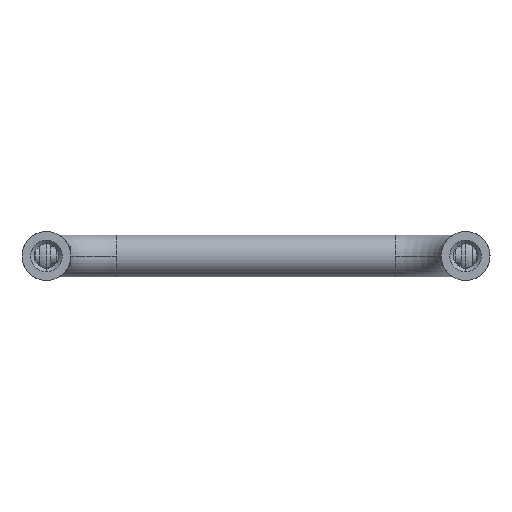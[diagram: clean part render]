
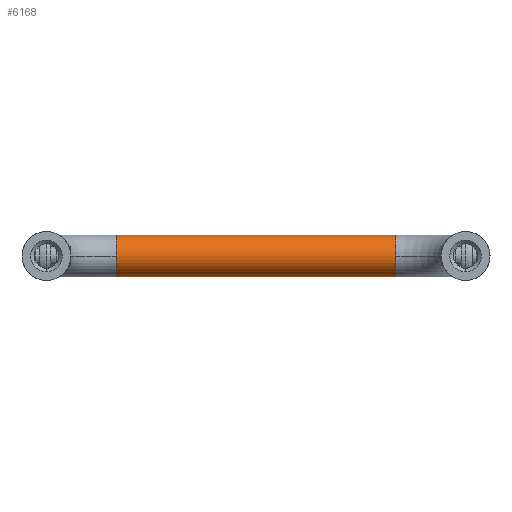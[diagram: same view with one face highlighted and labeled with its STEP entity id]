
A CAD part, front view. The second image highlights one B-rep face of the part: STEP entity #6168.
In plain terms, the highlighted cylindrical face has radius 3 mm (diameter 6 mm), a partial arc.
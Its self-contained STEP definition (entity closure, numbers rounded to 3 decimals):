
#33 = DIRECTION ( 'NONE',  ( 1., 0., 0. ) ) ;
#79 = CARTESIAN_POINT ( 'NONE',  ( -20., 34.682, 3. ) ) ;
#196 = FACE_OUTER_BOUND ( 'NONE', #1392, .T. ) ;
#327 = CIRCLE ( 'NONE', #1070, 3. ) ;
#387 = ORIENTED_EDGE ( 'NONE', *, *, #7477, .T. ) ;
#487 = CARTESIAN_POINT ( 'NONE',  ( 20., 34.682, 0. ) ) ;
#622 = AXIS2_PLACEMENT_3D ( 'NONE', #3644, #5997, #3025 ) ;
#639 = ORIENTED_EDGE ( 'NONE', *, *, #5566, .T. ) ;
#1070 = AXIS2_PLACEMENT_3D ( 'NONE', #487, #6851, #1607 ) ;
#1200 = VERTEX_POINT ( 'NONE', #2782 ) ;
#1315 = ORIENTED_EDGE ( 'NONE', *, *, #5380, .F. ) ;
#1374 = LINE ( 'NONE', #2029, #6910 ) ;
#1392 = EDGE_LOOP ( 'NONE', ( #1315, #2997, #1551, #639, #387, #3459 ) ) ;
#1551 = ORIENTED_EDGE ( 'NONE', *, *, #3642, .F. ) ;
#1607 = DIRECTION ( 'NONE',  ( 0., 0., 1. ) ) ;
#1746 = DIRECTION ( 'NONE',  ( 0., 0., 1. ) ) ;
#1769 = CARTESIAN_POINT ( 'NONE',  ( -20., 31.682, 0. ) ) ;
#2029 = CARTESIAN_POINT ( 'NONE',  ( -20., 34.682, -3. ) ) ;
#2215 = DIRECTION ( 'NONE',  ( -1., 0., 0. ) ) ;
#2474 = EDGE_CURVE ( 'NONE', #7182, #6692, #5305, .T. ) ;
#2782 = CARTESIAN_POINT ( 'NONE',  ( -20., 34.682, -3. ) ) ;
#2981 = VERTEX_POINT ( 'NONE', #5814 ) ;
#2997 = ORIENTED_EDGE ( 'NONE', *, *, #2474, .F. ) ;
#3025 = DIRECTION ( 'NONE',  ( 0., 0., -1. ) ) ;
#3175 = DIRECTION ( 'NONE',  ( 1., 0., 0. ) ) ;
#3459 = ORIENTED_EDGE ( 'NONE', *, *, #7488, .T. ) ;
#3468 = VECTOR ( 'NONE', #33, 1000. ) ;
#3642 = EDGE_CURVE ( 'NONE', #1200, #7182, #7243, .T. ) ;
#3644 = CARTESIAN_POINT ( 'NONE',  ( -20., 34.682, 0. ) ) ;
#4143 = CARTESIAN_POINT ( 'NONE',  ( 20., 31.682, 0. ) ) ;
#4491 = DIRECTION ( 'NONE',  ( -1., 0., 0. ) ) ;
#4599 = CARTESIAN_POINT ( 'NONE',  ( -20., 34.682, 0. ) ) ;
#4666 = CARTESIAN_POINT ( 'NONE',  ( 20., 34.682, 3. ) ) ;
#4826 = VERTEX_POINT ( 'NONE', #4666 ) ;
#5161 = CARTESIAN_POINT ( 'NONE',  ( 20., 34.682, 0. ) ) ;
#5305 = CIRCLE ( 'NONE', #5687, 3. ) ;
#5316 = CARTESIAN_POINT ( 'NONE',  ( -20., 34.682, 3. ) ) ;
#5380 = EDGE_CURVE ( 'NONE', #6692, #4826, #5395, .T. ) ;
#5390 = CIRCLE ( 'NONE', #6612, 3. ) ;
#5395 = LINE ( 'NONE', #5316, #3468 ) ;
#5457 = CYLINDRICAL_SURFACE ( 'NONE', #622, 3. ) ;
#5566 = EDGE_CURVE ( 'NONE', #1200, #2981, #1374, .T. ) ;
#5671 = DIRECTION ( 'NONE',  ( -1., 0., 0. ) ) ;
#5687 = AXIS2_PLACEMENT_3D ( 'NONE', #4599, #2215, #1746 ) ;
#5814 = CARTESIAN_POINT ( 'NONE',  ( 20., 34.682, -3. ) ) ;
#5997 = DIRECTION ( 'NONE',  ( 1., 0., 0. ) ) ;
#6030 = AXIS2_PLACEMENT_3D ( 'NONE', #7446, #4491, #6231 ) ;
#6085 = VERTEX_POINT ( 'NONE', #4143 ) ;
#6168 = ADVANCED_FACE ( 'NONE', ( #196 ), #5457, .T. ) ;
#6231 = DIRECTION ( 'NONE',  ( 0., 0., 1. ) ) ;
#6612 = AXIS2_PLACEMENT_3D ( 'NONE', #5161, #5671, #7494 ) ;
#6692 = VERTEX_POINT ( 'NONE', #79 ) ;
#6851 = DIRECTION ( 'NONE',  ( -1., 0., 0. ) ) ;
#6910 = VECTOR ( 'NONE', #3175, 1000. ) ;
#7182 = VERTEX_POINT ( 'NONE', #1769 ) ;
#7243 = CIRCLE ( 'NONE', #6030, 3. ) ;
#7446 = CARTESIAN_POINT ( 'NONE',  ( -20., 34.682, 0. ) ) ;
#7477 = EDGE_CURVE ( 'NONE', #2981, #6085, #327, .T. ) ;
#7488 = EDGE_CURVE ( 'NONE', #6085, #4826, #5390, .T. ) ;
#7494 = DIRECTION ( 'NONE',  ( 0., 0., 1. ) ) ;
